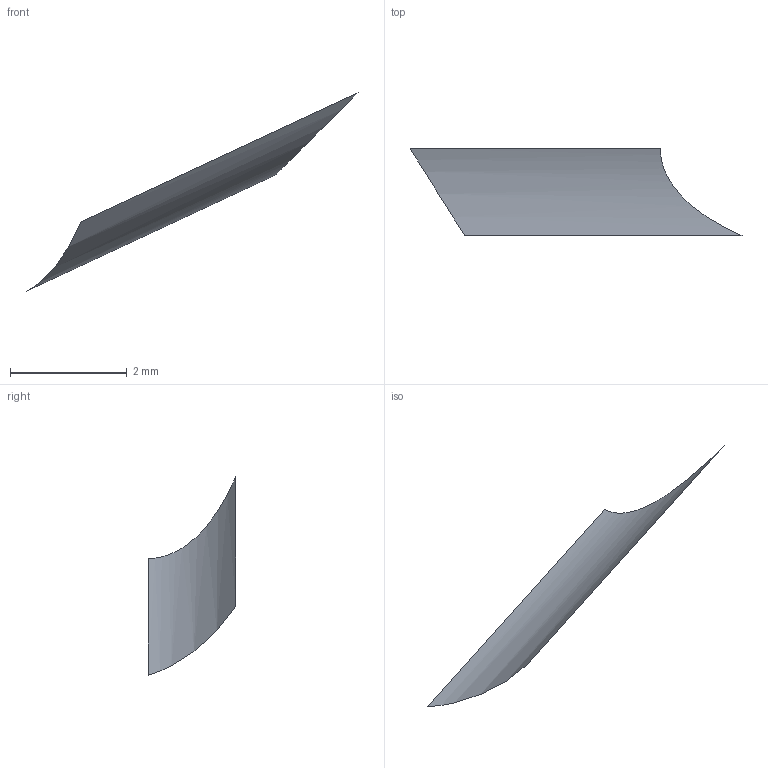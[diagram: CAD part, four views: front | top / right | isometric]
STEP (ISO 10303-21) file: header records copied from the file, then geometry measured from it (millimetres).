
FILE_DESCRIPTION(('Open CASCADE Model'),'2;1');
FILE_NAME('Open CASCADE Shape Model','2018-07-16T11:29:11',('Author'),( 'Open CASCADE'),'Open CASCADE STEP processor 7.3','Open CASCADE 7.3' ,'Unknown');
FILE_SCHEMA(('AUTOMOTIVE_DESIGN { 1 0 10303 214 1 1 1 1 }'));
Length unit declared in the file: millimetre
Products named in the file (1): Open CASCADE STEP translator 7.3 246
Bounding box: 5.69 x 1.5 x 3.4 mm (x, y, z)
Surface area: 8 mm2 (no closed solid volume)
Topology: 0 solids, 1 shells, 1 faces, 4 edges, 4 vertices
Faces by surface type: cylinder 1
Entity records: 174 total; most frequent: CARTESIAN_POINT 116, DIRECTION 6, ORIENTED_EDGE 4, EDGE_CURVE 4, VERTEX_POINT 4, SURFACE_CURVE 4, PCURVE 4, DEFINITIONAL_REPRESENTATION 4
